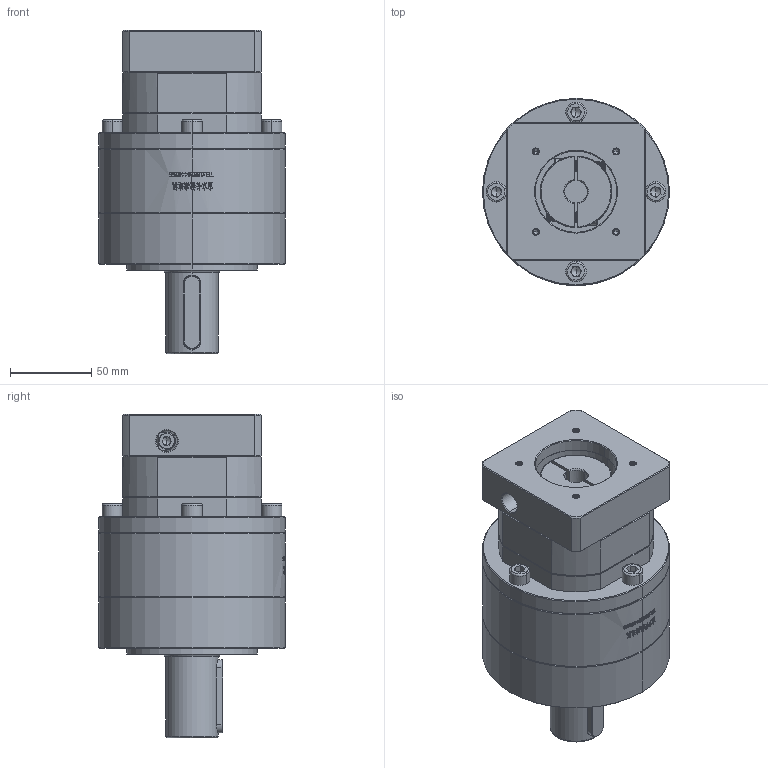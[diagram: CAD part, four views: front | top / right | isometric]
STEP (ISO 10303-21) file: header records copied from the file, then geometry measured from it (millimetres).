
FILE_DESCRIPTION (( 'STEP AP214' ), '1' );
FILE_NAME ('ZE120A-D32-L2-14-50-70-M4.step', '2023-03-13T06:50:36', ( '' ), ( '' ), 'SwSTEP 2.0', 'SolidWorks 2016', '' );
FILE_SCHEMA (( 'AUTOMOTIVE_DESIGN' ));
Length unit declared in the file: millimetre
Products named in the file (1): ZE120A-D32-L2-14-50-70-M4
Bounding box: 115 x 115 x 199 mm (x, y, z)
Volume: 1251966.9 mm3; surface area: 122393.8 mm2
Topology: 5 solids, 6 shells, 2018 faces, 5347 edges, 3420 vertices
Faces by surface type: plane 862, cylinder 492, bspline 348, cone 316
Entity records: 114430 total; most frequent: CARTESIAN_POINT 46898, ORIENTED_EDGE 10618, DIRECTION 7899, EDGE_CURVE 5309, VERTEX_POINT 3420, LINE 2785, VECTOR 2785, AXIS2_PLACEMENT_3D 2557
